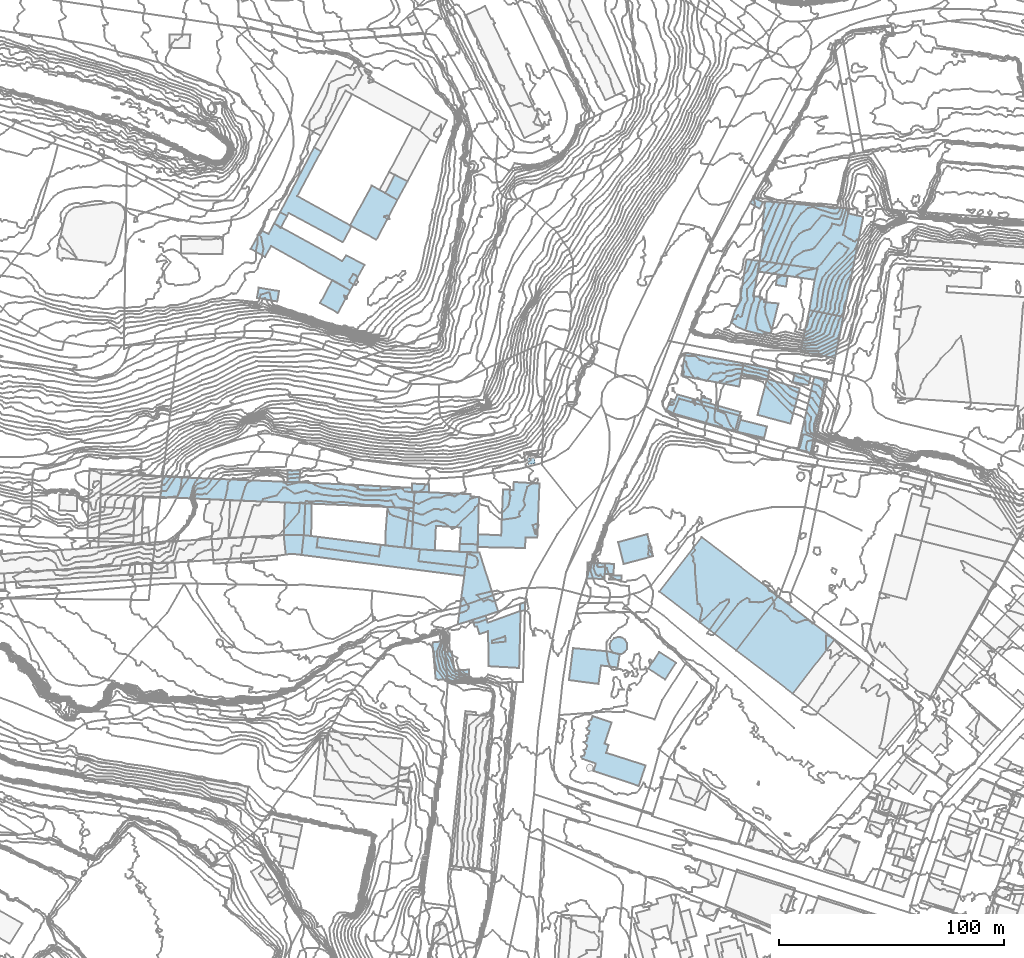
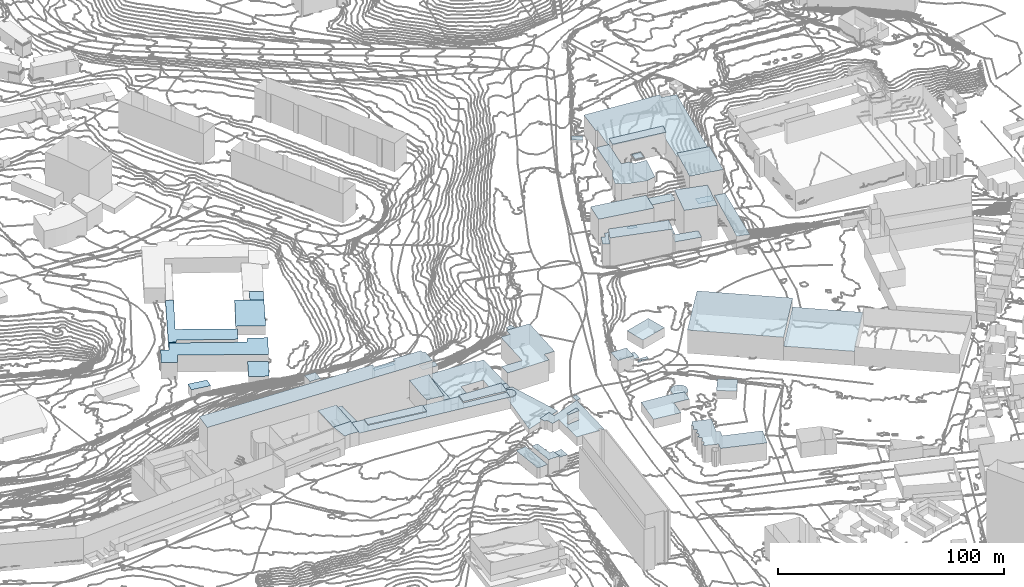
# Not in any storey, part 79 of 419: 56 roofs.
"""IFC2X3 model written with IfcOpenShell, lengths in metres."""

from ifc_helpers import new_model, si_unit, frame, origin_with_axes, place, context, subcontext, project, faceted_brep, element, save


model = new_model("IFC2X3")

# Units and contexts
model_context = context("Model", 3, precision=1e-05, world=origin_with_axes())
body_context = subcontext(model_context, "Body", "Model", "MODEL_VIEW")
ifc_project = project(units=[si_unit("AREAUNIT", "SQUARE_METRE"), si_unit("LENGTHUNIT", "METRE")], contexts=[model_context])

# Roofs
roof_1_placement = place(None, frame((808.3920204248, 392.4976909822, 74.1273982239), z_axis=(0.0, 0.0, 1.0), x_axis=(1.0, 0.0, 0.0)))
element("IfcRoof", 1, at=roof_1_placement, Name="Toiture 0", ShapeType="NOTDEFINED", context=body_context, shape_type="Brep", body=[
    faceted_brep([(0.7999999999, 4.0, 9.8726017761), (0.0, 0.0, 9.8726017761), (7.0, -1.3999999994, 9.8726017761), (7.8999999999, 2.7000000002, 9.8726017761)], [[[0, 1, 2]], [[2, 3, 0]]]),
])
roof_2_placement = place(None, frame((782.6920204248, 370.6976909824, 79.8897016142), z_axis=(0.0, 0.0, 1.0), x_axis=(1.0, 0.0, 0.0)))
element("IfcRoof", 2, at=roof_2_placement, Name="Toiture 0", ShapeType="NOTDEFINED", context=body_context, shape_type="Brep", body=[
    faceted_brep([(2.9, 6.6000000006, 9.8102983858), (1.9, 6.9000000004, 9.8102983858), (0.0, 0.0, 9.8102983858), (0.9, -0.2999999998, 9.8102983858)], [[[0, 1, 2]], [[2, 3, 0]]]),
])
roof_3_placement = place(None, frame((792.7920204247, 441.5976909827, 80.2005007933), z_axis=(0.0, 0.0, 1.0), x_axis=(1.0, 0.0, 0.0)))
element("IfcRoof", 3, at=roof_3_placement, Name="Toiture 0", ShapeType="NOTDEFINED", context=body_context, shape_type="Brep", body=[
    faceted_brep([(0.0, 0.0, 11.5994992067), (25.3, -3.7000000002, 11.5994992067), (26.6000000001, 1.2000000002, 11.5994992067), (0.9, 4.7000000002, 11.5994992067)], [[[0, 1, 2]], [[2, 3, 0]]]),
])
roof_4_placement = place(None, frame((570.3920204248, 429.7976909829, 39.4399986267), z_axis=(0.0, 0.0, 1.0), x_axis=(1.0, 0.0, 0.0)))
element("IfcRoof", 4, at=roof_4_placement, Name="Toiture 0", ShapeType="NOTDEFINED", context=body_context, shape_type="Brep", body=[
    faceted_brep([(0.0, 0.0, 4.5600013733), (9.0, -1.5, 4.5600013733), (9.7999999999, 3.0999999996, 4.5600013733), (0.7999999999, 4.5999999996, 4.5600013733)], [[[0, 1, 2]], [[2, 3, 0]]]),
])
roof_5_placement = place(None, frame((724.8920204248, 307.2976909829, 79.5649978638), z_axis=(0.0, 0.0, 1.0), x_axis=(1.0, 0.0, 0.0)))
element("IfcRoof", 5, at=roof_5_placement, Name="Toiture 0", ShapeType="NOTDEFINED", context=body_context, shape_type="Brep", body=[
    faceted_brep([(0.2, 4.5999999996, 0.9350021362), (0.0, 0.0, 0.9350021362), (3.8999999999, -0.2000000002, 0.9350021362), (4.1, 4.3999999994, 0.9350021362)], [[[0, 1, 2]], [[2, 3, 0]]]),
])
roof_6_placement = place(None, frame((582.2920204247, 324.4976909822, 76.1870000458), z_axis=(0.0, 0.0, 1.0), x_axis=(1.0, 0.0, 0.0)))
element("IfcRoof", 6, at=roof_6_placement, Name="Toiture 0", ShapeType="NOTDEFINED", context=body_context, shape_type="Brep", body=[
    faceted_brep([(3.7000000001, -8.2999999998, 7.3129999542), (7.9, -8.7999999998, 7.3129999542), (8.9, 0.0, 7.3129999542), (0.0, 0.0, 7.3129999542), (0.9, -8.5999999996, 7.3129999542)], [[[0, 1, 2]], [[2, 3, 4]], [[4, 0, 2]]]),
])
roof_7_placement = place(None, frame((662.9920204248, 310.3976909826, 76.4266980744), z_axis=(0.0, 0.0, 1.0), x_axis=(1.0, 0.0, 0.0)))
element("IfcRoof", 7, at=roof_7_placement, Name="Toiture 0", ShapeType="NOTDEFINED", context=body_context, shape_type="Brep", body=[
    faceted_brep([(0.9, 5.7000000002, 3.3733019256), (0.0, 0.0, 3.3733019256), (3.0, -0.5, 3.3733019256), (4.2999999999, -0.0999999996, 3.3733019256), (5.2999999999, 1.0, 3.3733019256), (5.6, 2.5, 3.3733019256), (5.2, 3.9000000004, 3.3733019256), (4.1, 4.9000000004, 3.3733019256)], [[[0, 1, 2]], [[2, 3, 4]], [[4, 5, 6]], [[6, 7, 0]], [[0, 2, 4]], [[4, 6, 0]]]),
])
roof_8_placement = place(None, frame((627.3920204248, 319.8976909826, 74.774999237), z_axis=(0.0, 0.0, 1.0), x_axis=(1.0, 0.0, 0.0)))
element("IfcRoof", 8, at=roof_8_placement, Name="Toiture 0", ShapeType="NOTDEFINED", context=body_context, shape_type="Brep", body=[
    faceted_brep([(1.0, 17.0999999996, 10.325000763), (0.2, 6.4000000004, 10.325000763), (0.0, 0.0, 10.325000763), (8.3999999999, -0.9000000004, 10.325000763), (10.7, 16.7000000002, 10.325000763)], [[[0, 1, 2]], [[2, 3, 4]], [[4, 0, 2]]]),
])
roof_9_placement = place(None, frame((749.0920204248, 299.4976909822, 80.233997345), z_axis=(0.0, 0.0, 1.0), x_axis=(1.0, 0.0, 0.0)))
element("IfcRoof", 9, at=roof_9_placement, Name="Toiture 0", ShapeType="NOTDEFINED", context=body_context, shape_type="Brep", body=[
    faceted_brep([(52.7, -2.0, 12.566002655), (52.1, -1.3999999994, 12.566002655), (18.8, 24.1000000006, 12.566002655), (0.0, 0.0, 12.566002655), (34.1, -26.1999999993, 12.566002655)], [[[0, 1, 2]], [[2, 3, 4]], [[4, 0, 2]]]),
])
roof_10_placement = place(None, frame((758.8920204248, 395.2976909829, 76.6662023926), z_axis=(0.0, 0.0, 1.0), x_axis=(1.0, 0.0, 0.0)))
element("IfcRoof", 10, at=roof_10_placement, Name="Toiture 0", ShapeType="NOTDEFINED", context=body_context, shape_type="Brep", body=[
    faceted_brep([(2.1, 10.1999999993, 14.5337976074), (1.7, 9.8999999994, 14.5337976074), (0.0, 0.0, 14.5337976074), (25.7, -4.8000000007, 14.5337976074), (27.6, 5.5, 14.5337976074)], [[[0, 1, 2]], [[2, 3, 4]], [[4, 0, 2]]]),
])
roof_11_placement = place(None, frame((793.6920204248, 446.2976909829, 77.1019989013), z_axis=(0.0, 0.0, 1.0), x_axis=(1.0, 0.0, 0.0)))
element("IfcRoof", 11, at=roof_11_placement, Name="Toiture 0", ShapeType="NOTDEFINED", context=body_context, shape_type="Brep", body=[
    faceted_brep([(34.3, 23.6999999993, 10.4980010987), (2.4, 26.5, 10.4980010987), (1.0, 13.5, 10.4980010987), (1.9, 13.3999999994, 10.4980010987), (0.0, 0.0, 10.4980010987), (25.7000000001, -3.5, 10.4980010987), (24.4, -8.4000000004, 10.4980010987), (22.1, -21.9000000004, 10.4980010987), (37.1, -24.8000000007, 10.4980010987), (46.0, 19.5999999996, 10.4980010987), (39.2000000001, 21.0999999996, 10.4980010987), (39.4, 23.2999999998, 10.4980010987)], [[[0, 1, 2]], [[3, 4, 5]], [[5, 6, 7]], [[7, 8, 9]], [[10, 11, 0]], [[0, 2, 3]], [[5, 7, 9]], [[10, 0, 3]], [[3, 5, 9]], [[9, 10, 3]]]),
])
roof_12_placement = place(None, frame((783.1920204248, 273.2976909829, 80.3804008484), z_axis=(0.0, 0.0, 1.0), x_axis=(1.0, 0.0, 0.0)))
element("IfcRoof", 12, at=roof_12_placement, Name="Toiture 0", ShapeType="NOTDEFINED", context=body_context, shape_type="Brep", body=[
    faceted_brep([(43.7000000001, 4.8999999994, 7.6195991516), (18.6, 24.1999999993, 7.6195991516), (0.0, 0.0, 7.6195991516), (25.2000000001, -19.2000000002, 7.6195991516)], [[[0, 1, 2]], [[2, 3, 0]]]),
])
roof_13_placement = place(None, frame((726.8920204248, 304.7976909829, 79.458000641), z_axis=(0.0, 0.0, 1.0), x_axis=(1.0, 0.0, 0.0)))
element("IfcRoof", 13, at=roof_13_placement, Name="Toiture 0", ShapeType="NOTDEFINED", context=body_context, shape_type="Brep", body=[
    faceted_brep([(5.2999999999, -0.2000000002, 0.641999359), (5.5, 1.6999999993, 0.641999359), (0.7, 1.8999999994, 0.641999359), (0.6, 0.5, 0.641999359), (0.0, 0.5, 0.641999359), (0.0, 0.0, 0.641999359)], [[[0, 1, 2]], [[3, 4, 5]], [[0, 2, 3]], [[3, 5, 0]]]),
])
roof_14_placement = place(None, frame((627.3920204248, 476.3976909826, 39.5999984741), z_axis=(0.0, 0.0, 1.0), x_axis=(1.0, 0.0, 0.0)))
element("IfcRoof", 14, at=roof_14_placement, Name="Toiture 0", ShapeType="NOTDEFINED", context=body_context, shape_type="Brep", body=[
    faceted_brep([(5.2999999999, -3.0, 2.9000015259), (9.7999999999, 5.2000000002, 2.9000015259), (4.2, 8.2000000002, 2.9000015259), (0.0, 0.0, 2.9000015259)], [[[0, 1, 2]], [[2, 3, 0]]]),
])
roof_15_placement = place(None, frame((598.3920204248, 427.4976909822, 39.6550003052), z_axis=(0.0, 0.0, 1.0), x_axis=(1.0, 0.0, 0.0)))
element("IfcRoof", 15, at=roof_15_placement, Name="Toiture 0", ShapeType="NOTDEFINED", context=body_context, shape_type="Brep", body=[
    faceted_brep([(7.8999999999, -4.2999999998, 3.1449996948), (13.3999999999, 5.7000000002, 3.1449996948), (5.3999999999, 10.4000000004, 3.1449996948), (0.0, 0.0, 3.1449996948)], [[[0, 1, 2]], [[2, 3, 0]]]),
])
roof_16_placement = place(None, frame((615.0920204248, 344.8976909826, 72.5699978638), z_axis=(0.0, 0.0, 1.0), x_axis=(1.0, 0.0, 0.0)))
element("IfcRoof", 16, at=roof_16_placement, Name="Toiture 0", ShapeType="NOTDEFINED", context=body_context, shape_type="Brep", body=[
    faceted_brep([(10.3, 1.2999999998, 17.6300021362), (0.2, 1.9000000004, 17.6300021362), (0.0, 0.0, 17.6300021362), (10.2, -0.5, 17.6300021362)], [[[0, 1, 2]], [[2, 3, 0]]]),
])
roof_17_placement = place(None, frame((583.9920204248, 348.1976909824, 71.1299972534), z_axis=(0.0, 0.0, 1.0), x_axis=(1.0, 0.0, 0.0)))
element("IfcRoof", 17, at=roof_17_placement, Name="Toiture 0", ShapeType="NOTDEFINED", context=body_context, shape_type="Brep", body=[
    faceted_brep([(0.1, 5.2000000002, 22.0700027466), (0.0, 0.0, 22.0700027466), (5.2999999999, -0.2000000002, 22.0700027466), (5.6, 4.9000000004, 22.0700027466)], [[[0, 1, 2]], [[2, 3, 0]]]),
])
roof_18_placement = place(None, frame((660.4920204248, 317.0976909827, 76.4400024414), z_axis=(0.0, 0.0, 1.0), x_axis=(1.0, 0.0, 0.0)))
element("IfcRoof", 18, at=roof_18_placement, Name="Toiture 0", ShapeType="NOTDEFINED", context=body_context, shape_type="Brep", body=[
    faceted_brep([(7.7, -0.2999999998, 3.1599975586), (7.7999999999, 0.0999999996, 3.1599975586), (8.0, 3.2999999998, 3.1599975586), (0.0, 3.5, 3.1599975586), (0.0, 0.0, 3.1599975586)], [[[0, 1, 2]], [[2, 3, 4]], [[4, 0, 2]]]),
])
roof_19_placement = place(None, frame((767.3920204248, 384.0976909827, 78.0046014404), z_axis=(0.0, 0.0, 1.0), x_axis=(1.0, 0.0, 0.0)))
element("IfcRoof", 19, at=roof_19_placement, Name="Toiture 0", ShapeType="NOTDEFINED", context=body_context, shape_type="Brep", body=[
    faceted_brep([(0.5, 1.7000000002, 11.6953985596), (0.0, 0.0, 11.6953985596), (4.2999999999, -1.2000000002, 11.6953985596), (4.7999999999, 0.5, 11.6953985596)], [[[0, 1, 2]], [[2, 3, 0]]]),
])
roof_20_placement = place(None, frame((714.3920204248, 226.1976909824, 78.0216014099), z_axis=(0.0, 0.0, 1.0), x_axis=(1.0, 0.0, 0.0)))
element("IfcRoof", 20, at=roof_20_placement, Name="Toiture 0", ShapeType="NOTDEFINED", context=body_context, shape_type="Brep", body=[
    faceted_brep([(0.7, -1.0999999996, 9.2783985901), (5.2, -2.7000000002, 9.2783985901), (6.5, -3.0999999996, 9.2783985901), (5.5, -6.5, 9.2783985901), (25.6, -13.0999999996, 9.2783985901), (28.6, -4.0, 9.2783985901), (11.1, 1.6000000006, 9.2783985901), (12.1, 5.1000000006, 9.2783985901), (10.3999999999, 5.7000000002, 9.2783985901), (13.5, 15.1000000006, 9.2783985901), (5.0, 17.9000000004, 9.2783985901), (4.5, 16.2999999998, 9.2783985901), (3.2999999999, 15.7000000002, 9.2783985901), (3.7999999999, 14.5, 9.2783985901), (3.2999999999, 13.2999999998, 9.2783985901), (2.3999999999, 12.7000000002, 9.2783985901), (2.8999999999, 11.7000000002, 9.2783985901), (3.2999999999, 10.0, 9.2783985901), (2.1, 9.4000000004, 9.2783985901), (2.7999999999, 8.2999999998, 9.2783985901), (2.2999999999, 6.9000000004, 9.2783985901), (1.1, 6.2999999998, 9.2783985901), (2.7, 4.7999999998, 9.2783985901), (2.1, 3.2999999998, 9.2783985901), (1.1, 2.7999999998, 9.2783985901), (1.7, 1.7999999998, 9.2783985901), (1.2999999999, 0.5, 9.2783985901), (0.0, 0.0, 9.2783985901), (3.7999999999, 11.4000000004, 9.2783985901)], [[[0, 1, 2]], [[2, 3, 4]], [[4, 5, 6]], [[6, 7, 8]], [[8, 9, 10]], [[11, 12, 13]], [[14, 15, 16]], [[17, 18, 19]], [[20, 21, 22]], [[23, 24, 25]], [[26, 27, 0]], [[2, 4, 6]], [[6, 8, 10]], [[13, 14, 16]], [[28, 17, 19]], [[19, 20, 22]], [[22, 23, 25]], [[26, 0, 2]], [[2, 6, 10]], [[11, 13, 16]], [[28, 19, 22]], [[22, 25, 26]], [[2, 10, 11]], [[11, 16, 28]], [[22, 26, 2]], [[2, 11, 28]], [[28, 22, 2]]]),
])
roof_21_placement = place(None, frame((580.5920204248, 467.8976909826, 39.4398013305), z_axis=(0.0, 0.0, 1.0), x_axis=(1.0, 0.0, 0.0)))
element("IfcRoof", 21, at=roof_21_placement, Name="Toiture 0", ShapeType="NOTDEFINED", context=body_context, shape_type="Brep", body=[
    faceted_brep([(7.7, 7.2000000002, 3.5601986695), (18.3, 27.0999999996, 3.5601986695), (15.1, 28.7999999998, 3.5601986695), (0.0, 0.0, 3.5601986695), (3.1, -1.5999999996, 3.5601986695), (3.9, -0.2999999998, 3.5601986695), (27.9, -13.2999999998, 3.5601986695), (31.8, -6.2000000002, 3.5601986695)], [[[0, 1, 2]], [[2, 3, 4]], [[5, 6, 7]], [[0, 2, 4]], [[5, 7, 0]], [[0, 4, 5]]]),
])
roof_22_placement = place(None, frame((567.5920204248, 451.6976909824, 37.4309989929), z_axis=(0.0, 0.0, 1.0), x_axis=(1.0, 0.0, 0.0)))
element("IfcRoof", 22, at=roof_22_placement, Name="Toiture 0", ShapeType="NOTDEFINED", context=body_context, shape_type="Brep", body=[
    faceted_brep([(44.2, -18.5, 9.1690010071), (50.5, -7.2000000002, 9.1690010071), (42.4, -2.8999999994, 9.1690010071), (40.7, -5.5, 9.1690010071), (10.4, 11.2000000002, 9.1690010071), (7.9, 6.6000000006, 9.1690010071), (4.4, 8.2000000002, 9.1690010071), (0.0, 0.0, 9.1690010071), (6.3, -3.7000000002, 9.1690010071), (9.0, 1.2000000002, 9.1690010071)], [[[0, 1, 2]], [[3, 4, 5]], [[5, 6, 7]], [[7, 8, 9]], [[0, 2, 3]], [[5, 7, 9]], [[9, 0, 3]], [[3, 5, 9]]]),
])
roof_23_placement = place(None, frame((590.1920204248, 315.6976909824, 76.3650003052), z_axis=(0.0, 0.0, 1.0), x_axis=(1.0, 0.0, 0.0)))
element("IfcRoof", 23, at=roof_23_placement, Name="Toiture 0", ShapeType="NOTDEFINED", context=body_context, shape_type="Brep", body=[
    faceted_brep([(0.0, 0.0, 6.3349996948), (72.2000000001, -9.2999999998, 6.3349996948), (72.8, -5.2999999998, 6.3349996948), (51.9, -2.7999999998, 6.3349996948), (52.6, 2.5, 6.3349996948), (35.2000000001, 4.5, 6.3349996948), (6.7000000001, 3.4000000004, 6.3349996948), (7.3, 8.0, 6.3349996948), (1.0, 8.7999999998, 6.3349996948), (34.4, -0.7000000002, 6.3349996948)], [[[0, 1, 2]], [[3, 4, 5]], [[6, 7, 8]], [[0, 2, 3]], [[3, 5, 9]], [[6, 8, 0]], [[0, 3, 9]], [[9, 6, 0]]]),
])
roof_24_placement = place(None, frame((730.8920204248, 321.3976909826, 80.5776004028), z_axis=(0.0, 0.0, 1.0), x_axis=(1.0, 0.0, 0.0)))
element("IfcRoof", 24, at=roof_24_placement, Name="Toiture 0", ShapeType="NOTDEFINED", context=body_context, shape_type="Brep", body=[
    faceted_brep([(15.5, -6.2000000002, 4.9223995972), (12.8999999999, 3.5999999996, 4.9223995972), (0.0, 0.0, 4.9223995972), (2.3999999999, -9.7000000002, 4.9223995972)], [[[0, 1, 2]], [[2, 3, 0]]]),
])
roof_25_placement = place(None, frame((708.9920204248, 260.0976909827, 77.3778022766), z_axis=(0.0, 0.0, 1.0), x_axis=(1.0, 0.0, 0.0)))
element("IfcRoof", 25, at=roof_25_placement, Name="Toiture 0", ShapeType="NOTDEFINED", context=body_context, shape_type="Brep", body=[
    faceted_brep([(22.5, 11.3999999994, 5.0221977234), (19.9, 12.0999999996, 5.0221977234), (16.9, 12.7999999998, 5.0221977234), (1.7999999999, 14.2000000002, 5.0221977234), (0.0, 0.0, 5.0221977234), (13.1, -1.7000000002, 5.0221977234), (14.2, 6.5, 5.0221977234), (21.6, 5.5999999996, 5.0221977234)], [[[0, 1, 2]], [[2, 3, 4]], [[4, 5, 6]], [[6, 7, 0]], [[0, 2, 4]], [[4, 6, 0]]]),
])
roof_26_placement = place(None, frame((690.3920204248, 358.6976909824, 75.3517977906), z_axis=(0.0, 0.0, 1.0), x_axis=(1.0, 0.0, 0.0)))
element("IfcRoof", 26, at=roof_26_placement, Name="Toiture 0", ShapeType="NOTDEFINED", context=body_context, shape_type="Brep", body=[
    faceted_brep([(0.0, 0.0, 3.3482022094), (0.5, -2.7999999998, 3.3482022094), (3.5, -2.2000000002, 3.3482022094), (3.0, 0.7000000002, 3.3482022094)], [[[0, 1, 2]], [[2, 3, 0]]]),
])
roof_27_placement = place(None, frame((639.2920204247, 343.8976909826, 72.5990028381), z_axis=(0.0, 0.0, 1.0), x_axis=(1.0, 0.0, 0.0)))
element("IfcRoof", 27, at=roof_27_placement, Name="Toiture 0", ShapeType="NOTDEFINED", context=body_context, shape_type="Brep", body=[
    faceted_brep([(0.0, 0.0, 10.1009971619), (1.1000000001, -0.0999999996, 10.1009971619), (7.5, -0.2999999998, 10.1009971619), (7.6000000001, 3.0999999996, 10.1009971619), (0.0, 3.5, 10.1009971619)], [[[0, 1, 2]], [[2, 3, 4]], [[4, 0, 2]]]),
])
roof_28_placement = place(None, frame((642.0920204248, 312.8976909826, 76.4150009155), z_axis=(0.0, 0.0, 1.0), x_axis=(1.0, 0.0, 0.0)))
element("IfcRoof", 28, at=roof_28_placement, Name="Toiture 0", ShapeType="NOTDEFINED", context=body_context, shape_type="Brep", body=[
    faceted_brep([(0.0, 0.0, 6.9849990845), (20.9, -2.5, 6.9849990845), (21.8, 4.0, 6.9849990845), (0.7, 5.2999999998, 6.9849990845)], [[[0, 1, 2]], [[2, 3, 0]]]),
])
roof_29_placement = place(None, frame((596.8920204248, 319.0976909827, 76.4000015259), z_axis=(0.0, 0.0, 1.0), x_axis=(1.0, 0.0, 0.0)))
element("IfcRoof", 29, at=roof_29_placement, Name="Toiture 0", ShapeType="NOTDEFINED", context=body_context, shape_type="Brep", body=[
    faceted_brep([(27.7, -4.1000000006, 6.5999984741), (28.5, 1.0999999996, 6.5999984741), (0.6, 4.5999999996, 6.5999984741), (0.0, 0.0, 6.5999984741)], [[[0, 1, 2]], [[2, 3, 0]]]),
])
roof_30_placement = place(None, frame((653.9920204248, 272.5976909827, 71.1980010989), z_axis=(0.0, 0.0, 1.0), x_axis=(1.0, 0.0, 0.0)))
element("IfcRoof", 30, at=roof_30_placement, Name="Toiture 0", ShapeType="NOTDEFINED", context=body_context, shape_type="Brep", body=[
    faceted_brep([(1.1, -12.7999999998, 8.4019989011), (6.7999999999, -12.7999999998, 8.4019989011), (6.1, -8.2000000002, 8.4019989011), (4.2, -8.5, 8.4019989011), (3.0, 0.2999999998, 8.4019989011), (0.0, 0.0, 8.4019989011)], [[[0, 1, 2]], [[3, 4, 5]], [[0, 2, 3]], [[3, 5, 0]]]),
])
roof_31_placement = place(None, frame((800.8920204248, 435.5976909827, 83.8170013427), z_axis=(0.0, 0.0, 1.0), x_axis=(1.0, 0.0, 0.0)))
element("IfcRoof", 31, at=roof_31_placement, Name="Toiture 0", ShapeType="NOTDEFINED", context=body_context, shape_type="Brep", body=[
    faceted_brep([(0.0, 0.0, 0.4829986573), (4.5, -0.7000000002, 0.4829986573), (5.2, 3.7999999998, 0.4829986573), (0.7, 4.5, 0.4829986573)], [[[0, 1, 2]], [[2, 3, 0]]]),
])
roof_32_placement = place(None, frame((783.5920204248, 370.3976909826, 79.8899993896), z_axis=(0.0, 0.0, 1.0), x_axis=(1.0, 0.0, 0.0)))
element("IfcRoof", 32, at=roof_32_placement, Name="Toiture 0", ShapeType="NOTDEFINED", context=body_context, shape_type="Brep", body=[
    faceted_brep([(13.3, 2.2999999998, 5.5100006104), (1.5, 5.2999999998, 5.5100006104), (0.0, 0.0, 5.5100006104), (12.1, -2.7000000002, 5.5100006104)], [[[0, 1, 2]], [[2, 3, 0]]]),
])
roof_33_placement = place(None, frame((611.6920204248, 461.9976909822, 39.5172005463), z_axis=(0.0, 0.0, 1.0), x_axis=(1.0, 0.0, 0.0)))
element("IfcRoof", 33, at=roof_33_placement, Name="Toiture 0", ShapeType="NOTDEFINED", context=body_context, shape_type="Brep", body=[
    faceted_brep([(13.1, 15.8000000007, 4.8827994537), (9.7000000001, 17.8000000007, 4.8827994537), (0.0, 0.0, 4.8827994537), (11.7000000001, -6.2999999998, 4.8827994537), (21.0, 11.4000000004, 4.8827994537)], [[[0, 1, 2]], [[2, 3, 4]], [[4, 0, 2]]]),
])
roof_34_placement = place(None, frame((660.0920204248, 264.3976909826, 72.1544018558), z_axis=(0.0, 0.0, 1.0), x_axis=(1.0, 0.0, 0.0)))
element("IfcRoof", 34, at=roof_34_placement, Name="Toiture 0", ShapeType="NOTDEFINED", context=body_context, shape_type="Brep", body=[
    faceted_brep([(0.7, -4.5999999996, 6.7455981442), (4.7, -4.5999999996, 6.7455981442), (4.4, 0.4000000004, 6.7455981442), (0.0, 0.0, 6.7455981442)], [[[0, 1, 2]], [[2, 3, 0]]]),
])
roof_35_placement = place(None, frame((659.5920204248, 284.7976909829, 76.4266980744), z_axis=(0.0, 0.0, 1.0), x_axis=(1.0, 0.0, 0.0)))
element("IfcRoof", 35, at=roof_35_placement, Name="Toiture 0", ShapeType="NOTDEFINED", context=body_context, shape_type="Brep", body=[
    faceted_brep([(9.7, 32.0, 3.0733019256), (4.3, 32.0999999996, 3.0733019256), (4.3, 31.2999999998, 3.0733019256), (6.4, 25.0999999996, 3.0733019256), (3.4, 25.5999999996, 3.0733019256), (0.0, 0.0, 3.0733019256), (7.5, 30.5, 3.0733019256), (7.7, 25.5, 3.0733019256), (8.6, 29.5, 3.0733019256), (8.7, 26.5999999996, 3.0733019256), (18.0, 5.7999999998, 3.0733019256), (9.0, 28.0999999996, 3.0733019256)], [[[0, 1, 2]], [[3, 4, 5]], [[0, 2, 6]], [[7, 3, 5]], [[0, 6, 8]], [[9, 7, 5]], [[10, 0, 8]], [[9, 5, 10]], [[10, 8, 11]], [[11, 9, 10]]]),
])
roof_36_placement = place(None, frame((527.4920204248, 341.3976909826, 64.9170021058), z_axis=(0.0, 0.0, 1.0), x_axis=(1.0, 0.0, 0.0)))
element("IfcRoof", 36, at=roof_36_placement, Name="Toiture 0", ShapeType="NOTDEFINED", context=body_context, shape_type="Brep", body=[
    faceted_brep([(87.7999999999, 5.4000000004, 27.2829978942), (1.1, 9.0999999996, 27.2829978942), (0.0, 0.0, 27.2829978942), (112.4, -4.9000000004, 27.2829978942), (112.9, 2.4000000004, 27.2829978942), (111.7999999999, 2.5, 27.2829978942), (111.7999999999, 4.0999999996, 27.2829978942), (97.9, 4.7999999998, 27.2829978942), (87.6, 3.5, 27.2829978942), (97.7999999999, 3.0, 27.2829978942)], [[[0, 1, 2]], [[2, 3, 4]], [[5, 6, 7]], [[8, 0, 2]], [[2, 4, 5]], [[5, 7, 9]], [[9, 8, 2]], [[2, 5, 9]]]),
])
roof_37_placement = place(None, frame((674.7920204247, 276.5976909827, 77.3393980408), z_axis=(0.0, 0.0, 1.0), x_axis=(1.0, 0.0, 0.0)))
element("IfcRoof", 37, at=roof_37_placement, Name="Toiture 0", ShapeType="NOTDEFINED", context=body_context, shape_type="Brep", body=[
    faceted_brep([(6.0, 0.5999999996, 9.3606019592), (5.9, 3.0, 9.3606019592), (0.0, 1.0999999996, 9.3606019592), (0.0, 0.0, 9.3606019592)], [[[0, 1, 2]], [[2, 3, 0]]]),
])
roof_38_placement = place(None, frame((635.7920204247, 318.9976909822, 74.6659996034), z_axis=(0.0, 0.0, 1.0), x_axis=(1.0, 0.0, 0.0)))
element("IfcRoof", 38, at=roof_38_placement, Name="Toiture 0", ShapeType="NOTDEFINED", context=body_context, shape_type="Brep", body=[
    faceted_brep([(0.0, 0.0, 7.5340003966), (3.3, -0.5, 7.5340003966), (4.1000000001, 17.5, 7.5340003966), (2.3, 17.6000000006, 7.5340003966)], [[[0, 1, 2]], [[2, 3, 0]]]),
])
roof_39_placement = place(None, frame((582.2920204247, 324.4976909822, 75.4519998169), z_axis=(0.0, 0.0, 1.0), x_axis=(1.0, 0.0, 0.0)))
element("IfcRoof", 39, at=roof_39_placement, Name="Toiture 0", ShapeType="NOTDEFINED", context=body_context, shape_type="Brep", body=[
    faceted_brep([(9.6000000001, 14.1000000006, 8.0480001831), (0.5, 14.5, 8.0480001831), (0.0, 0.0, 8.0480001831), (8.9, 0.0, 8.0480001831)], [[[0, 1, 2]], [[2, 3, 0]]]),
])
roof_40_placement = place(None, frame((811.6920204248, 405.9976909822, 73.9557995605), z_axis=(0.0, 0.0, 1.0), x_axis=(1.0, 0.0, 0.0)))
element("IfcRoof", 40, at=roof_40_placement, Name="Toiture 0", ShapeType="NOTDEFINED", context=body_context, shape_type="Brep", body=[
    faceted_brep([(0.0, 0.0, 15.5442004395), (15.5, -2.8999999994, 15.5442004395), (19.1, 15.5, 15.5442004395), (4.1, 18.4000000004, 15.5442004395)], [[[0, 1, 2]], [[2, 3, 0]]]),
])
roof_41_placement = place(None, frame((789.3920204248, 471.8976909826, 75.6900009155), z_axis=(0.0, 0.0, 1.0), x_axis=(1.0, 0.0, 0.0)))
element("IfcRoof", 41, at=roof_41_placement, Name="Toiture 0", ShapeType="NOTDEFINED", context=body_context, shape_type="Brep", body=[
    faceted_brep([(5.7, 0.5, 1.3099990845), (1.3999999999, 2.5999999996, 1.3099990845), (0.0, 0.0, 1.3099990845), (4.2999999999, -2.4000000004, 1.3099990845)], [[[0, 1, 2]], [[2, 3, 0]]]),
])
roof_42_placement = place(None, frame((785.6920204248, 395.3976909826, 75.9684982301), z_axis=(0.0, 0.0, 1.0), x_axis=(1.0, 0.0, 0.0)))
element("IfcRoof", 42, at=roof_42_placement, Name="Toiture 0", ShapeType="NOTDEFINED", context=body_context, shape_type="Brep", body=[
    faceted_brep([(0.8, 5.4000000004, 13.4315017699), (0.0, 0.0, 13.4315017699), (11.1, -2.0, 13.4315017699), (11.2000000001, -1.5999999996, 13.4315017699), (11.6, -1.7999999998, 13.4315017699), (12.4, 3.2999999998, 13.4315017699)], [[[0, 1, 2]], [[3, 4, 5]], [[5, 0, 2]], [[2, 3, 5]]]),
])
roof_43_placement = place(None, frame((755.0920204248, 378.5976909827, 77.1989997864), z_axis=(0.0, 0.0, 1.0), x_axis=(1.0, 0.0, 0.0)))
element("IfcRoof", 43, at=roof_43_placement, Name="Toiture 0", ShapeType="NOTDEFINED", context=body_context, shape_type="Brep", body=[
    faceted_brep([(0.0, 0.0, 15.3010002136), (27.6, -7.9000000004, 15.3010002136), (29.5, -1.0, 15.3010002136), (2.9, 6.5, 15.3010002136)], [[[0, 1, 2]], [[2, 3, 0]]]),
])
roof_44_placement = place(None, frame((716.9920204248, 305.2976909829, 76.9332013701), z_axis=(0.0, 0.0, 1.0), x_axis=(1.0, 0.0, 0.0)))
element("IfcRoof", 44, at=roof_44_placement, Name="Toiture 0", ShapeType="NOTDEFINED", context=body_context, shape_type="Brep", body=[
    faceted_brep([(8.1, 6.5999999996, 7.0667986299), (0.2999999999, 7.0, 7.0667986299), (0.0, 0.0, 7.0667986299), (7.7999999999, -0.3000000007, 7.0667986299)], [[[0, 1, 2]], [[2, 3, 0]]]),
])
roof_45_placement = place(None, frame((727.0920204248, 275.8976909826, 78.109998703), z_axis=(0.0, 0.0, 1.0), x_axis=(1.0, 0.0, 0.0)))
element("IfcRoof", 45, at=roof_45_placement, Name="Toiture 0", ShapeType="NOTDEFINED", context=body_context, shape_type="Brep", body=[
    faceted_brep([(0.2, -1.7999999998, 3.190001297), (1.8, -3.7000000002, 3.190001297), (5.1, -4.2999999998, 3.190001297), (6.6, -3.4000000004, 3.190001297), (7.6, -1.9000000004, 3.190001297), (7.7, 0.7000000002, 3.190001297), (6.8, 2.2000000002, 3.190001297), (5.3, 3.2000000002, 3.190001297), (3.6, 3.4000000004, 3.190001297), (1.9, 2.7999999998, 3.190001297), (0.6, 1.5999999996, 3.190001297), (0.0, 0.0, 3.190001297)], [[[0, 1, 2]], [[2, 3, 4]], [[4, 5, 6]], [[6, 7, 8]], [[8, 9, 10]], [[10, 11, 0]], [[0, 2, 4]], [[4, 6, 8]], [[8, 10, 0]], [[0, 4, 8]]]),
])
roof_46_placement = place(None, frame((591.1920204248, 324.4976909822, 76.2636010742), z_axis=(0.0, 0.0, 1.0), x_axis=(1.0, 0.0, 0.0)))
element("IfcRoof", 46, at=roof_46_placement, Name="Toiture 0", ShapeType="NOTDEFINED", context=body_context, shape_type="Brep", body=[
    faceted_brep([(0.7000000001, 14.1000000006, 5.9363989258), (0.0, 0.0, 5.9363989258), (3.3, -0.3999999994, 5.9363989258), (3.5, 14.0, 5.9363989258)], [[[0, 1, 2]], [[2, 3, 0]]]),
])
roof_47_placement = place(None, frame((577.9920204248, 462.8976909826, 39.5182004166), z_axis=(0.0, 0.0, 1.0), x_axis=(1.0, 0.0, 0.0)))
element("IfcRoof", 47, at=roof_47_placement, Name="Toiture 0", ShapeType="NOTDEFINED", context=body_context, shape_type="Brep", body=[
    faceted_brep([(0.0, 0.0, 3.4817995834), (2.9, -1.9000000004, 3.4817995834), (5.7, 3.4000000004, 3.4817995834), (2.6, 5.0, 3.4817995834)], [[[0, 1, 2]], [[2, 3, 0]]]),
])
roof_48_placement = place(None, frame((744.0920204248, 265.1976909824, 78.0773980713), z_axis=(0.0, 0.0, 1.0), x_axis=(1.0, 0.0, 0.0)))
element("IfcRoof", 48, at=roof_48_placement, Name="Toiture 0", ShapeType="NOTDEFINED", context=body_context, shape_type="Brep", body=[
    faceted_brep([(7.6, -4.7999999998, 4.5226019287), (12.4, 2.6000000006, 4.5226019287), (4.9, 7.4000000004, 4.5226019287), (0.0, 0.0, 4.5226019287)], [[[0, 1, 2]], [[2, 3, 0]]]),
])
roof_49_placement = place(None, frame((668.3920204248, 319.1976909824, 74.5608015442), z_axis=(0.0, 0.0, 1.0), x_axis=(1.0, 0.0, 0.0)))
element("IfcRoof", 49, at=roof_49_placement, Name="Toiture 0", ShapeType="NOTDEFINED", context=body_context, shape_type="Brep", body=[
    faceted_brep([(15.8999999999, 25.4000000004, 11.2391984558), (11.2999999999, 25.6000000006, 11.2391984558), (10.5, 5.2000000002, 11.2391984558), (0.2, 5.7000000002, 11.2391984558), (0.0, 0.0, 11.2391984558), (21.1, -0.3999999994, 11.2391984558), (21.2999999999, 4.2999999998, 11.2391984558), (26.5, 4.2000000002, 11.2391984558), (27.5, 28.2000000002, 11.2391984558), (16.1, 28.9000000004, 11.2391984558)], [[[0, 1, 2]], [[2, 3, 4]], [[4, 5, 6]], [[6, 7, 8]], [[8, 9, 0]], [[2, 4, 6]], [[6, 8, 0]], [[0, 2, 6]]]),
])
roof_50_placement = place(None, frame((648.3920204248, 276.1976909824, 70.5738009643), z_axis=(0.0, 0.0, 1.0), x_axis=(1.0, 0.0, 0.0)))
element("IfcRoof", 50, at=roof_50_placement, Name="Toiture 0", ShapeType="NOTDEFINED", context=body_context, shape_type="Brep", body=[
    faceted_brep([(6.6, -15.5999999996, 6.0261990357), (5.6, -3.5999999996, 6.0261990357), (5.1, 1.2000000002, 6.0261990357), (0.2999999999, 0.7000000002, 6.0261990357), (0.0, 0.0, 6.0261990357), (1.3999999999, -15.2999999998, 6.0261990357), (2.5, -16.0, 6.0261990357)], [[[0, 1, 2]], [[2, 3, 4]], [[4, 5, 6]], [[6, 0, 2]], [[2, 4, 6]]]),
])
roof_51_placement = place(None, frame((639.0920204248, 318.4976909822, 73.0108013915), z_axis=(0.0, 0.0, 1.0), x_axis=(1.0, 0.0, 0.0)))
element("IfcRoof", 51, at=roof_51_placement, Name="Toiture 0", ShapeType="NOTDEFINED", context=body_context, shape_type="Brep", body=[
    faceted_brep([(21.4, 2.1000000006, 6.2891986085), (29.4, 1.9000000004, 6.2891986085), (29.9, 22.9000000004, 6.2891986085), (26.2, 23.2000000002, 6.2891986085), (26.2, 24.2000000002, 6.2891986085), (1.3, 25.3000000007, 6.2891986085), (0.0, 0.0, 6.2891986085), (10.3, -0.7999999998, 6.2891986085), (21.9, 9.4000000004, 6.2891986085), (10.8, 10.1000000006, 6.2891986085)], [[[0, 1, 2]], [[3, 4, 5]], [[5, 6, 7]], [[8, 0, 2]], [[5, 7, 9]], [[9, 8, 2]], [[3, 5, 9]], [[9, 2, 3]]]),
])
roof_52_placement = place(None, frame((666.2920204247, 286.8976909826, 76.7629981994), z_axis=(0.0, 0.0, 1.0), x_axis=(1.0, 0.0, 0.0)))
element("IfcRoof", 52, at=roof_52_placement, Name="Toiture 0", ShapeType="NOTDEFINED", context=body_context, shape_type="Brep", body=[
    faceted_brep([(21.2000000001, 3.9000000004, 4.8370018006), (23.1000000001, 4.2000000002, 4.8370018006), (23.2000000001, 7.7999999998, 4.8370018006), (20.9, 7.0999999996, 4.8370018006), (20.9, 3.9000000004, 4.8370018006), (6.6000000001, -1.2999999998, 4.8370018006), (5.8, 1.9000000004, 4.8370018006), (0.0, 0.0, 4.8370018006), (0.9, -3.0999999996, 4.8370018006), (1.9, -2.9000000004, 4.8370018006), (2.9, -6.2999999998, 4.8370018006), (6.8, -5.0999999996, 4.8370018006), (20.6000000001, -21.4000000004, 4.8370018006), (8.5, -10.2999999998, 4.8370018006), (7.0, -20.5999999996, 4.8370018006), (8.5, -9.2000000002, 4.8370018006), (14.5, -9.7000000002, 4.8370018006), (14.4, -7.2999999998, 4.8370018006)], [[[0, 1, 2]], [[2, 3, 4]], [[5, 6, 7]], [[7, 8, 9]], [[9, 10, 11]], [[0, 2, 4]], [[5, 7, 9]], [[12, 0, 4]], [[5, 9, 11]], [[13, 11, 14]], [[4, 5, 11]], [[11, 13, 15]], [[16, 13, 14]], [[4, 11, 15]], [[16, 14, 12]], [[4, 15, 17]], [[17, 16, 12]], [[12, 4, 17]]]),
])
roof_53_placement = place(None, frame((792.6920204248, 377.8976909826, 76.4721983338), z_axis=(0.0, 0.0, 1.0), x_axis=(1.0, 0.0, 0.0)))
element("IfcRoof", 53, at=roof_53_placement, Name="Toiture 0", ShapeType="NOTDEFINED", context=body_context, shape_type="Brep", body=[
    faceted_brep([(4.1, 15.5, 18.2278016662), (0.0, 0.0, 18.2278016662), (14.7000000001, -3.9000000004, 18.2278016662), (18.8, 11.7999999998, 18.2278016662), (4.2000000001, 15.9000000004, 18.2278016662)], [[[0, 1, 2]], [[2, 3, 4]], [[4, 0, 2]]]),
])
roof_54_placement = place(None, frame((752.2920204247, 380.1976909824, 77.1989997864), z_axis=(0.0, 0.0, 1.0), x_axis=(1.0, 0.0, 0.0)))
element("IfcRoof", 54, at=roof_54_placement, Name="Toiture 0", ShapeType="NOTDEFINED", context=body_context, shape_type="Brep", body=[
    faceted_brep([(0.0, 0.0, 12.2010002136), (2.8, -1.5999999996, 12.2010002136), (5.7000000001, 4.9000000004, 12.2010002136), (32.3, -2.5999999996, 12.2010002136), (32.8, -1.0999999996, 12.2010002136), (3.7000000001, 4.1000000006, 12.2010002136), (2.0, 4.7999999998, 12.2010002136), (4.8, 6.7999999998, 12.2010002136)], [[[0, 1, 2]], [[2, 3, 4]], [[5, 6, 0]], [[2, 4, 7]], [[5, 0, 2]], [[2, 7, 5]]]),
])
roof_55_placement = place(None, frame((810.5920204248, 362.3976909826, 73.6903987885), z_axis=(0.0, 0.0, 1.0), x_axis=(1.0, 0.0, 0.0)))
element("IfcRoof", 55, at=roof_55_placement, Name="Toiture 0", ShapeType="NOTDEFINED", context=body_context, shape_type="Brep", body=[
    faceted_brep([(12.1, 31.2999999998, 10.2096012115), (7.3, 32.2999999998, 10.2096012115), (0.0, 0.0, 10.2096012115), (5.7, -1.7000000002, 10.2096012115), (12.1, 30.7999999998, 10.2096012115)], [[[0, 1, 2]], [[2, 3, 4]], [[4, 0, 2]]]),
])
roof_56_placement = place(None, frame((780.9920204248, 418.9976909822, 78.321199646), z_axis=(0.0, 0.0, 1.0), x_axis=(1.0, 0.0, 0.0)))
element("IfcRoof", 56, at=roof_56_placement, Name="Toiture 0", ShapeType="NOTDEFINED", context=body_context, shape_type="Brep", body=[
    faceted_brep([(10.0, 11.7000000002, 10.278800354), (12.7, 27.3000000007, 10.278800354), (6.7999999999, 28.0, 10.278800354), (3.7999999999, 8.9000000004, 10.278800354), (1.9, 5.6000000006, 10.278800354), (0.0, 0.0, 10.278800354), (2.2999999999, -1.7999999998, 10.278800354), (6.0, -3.5, 10.278800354), (13.5, -5.3999999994, 10.278800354), (17.7999999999, -4.5, 10.278800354), (21.0, 8.4000000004, 10.278800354), (14.6, 9.0, 10.278800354), (14.7999999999, 10.1000000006, 10.278800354), (13.7, 10.3000000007, 10.278800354), (13.7999999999, 11.1000000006, 10.278800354)], [[[0, 1, 2]], [[3, 4, 5]], [[5, 6, 7]], [[7, 8, 9]], [[9, 10, 11]], [[11, 12, 13]], [[13, 14, 0]], [[0, 2, 3]], [[3, 5, 7]], [[7, 9, 11]], [[11, 13, 0]], [[0, 3, 7]], [[7, 11, 0]]]),
])

save(model, "model.ifc")
